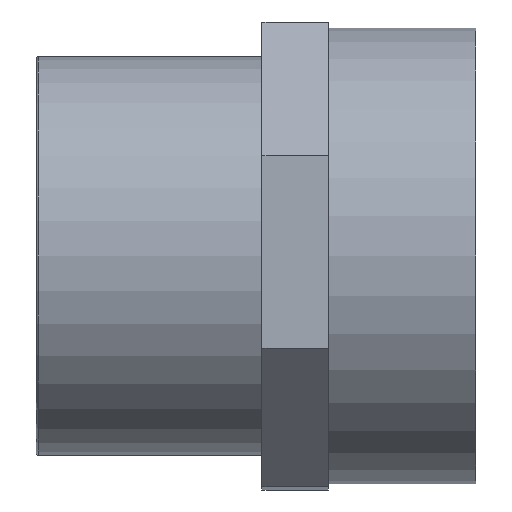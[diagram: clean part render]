
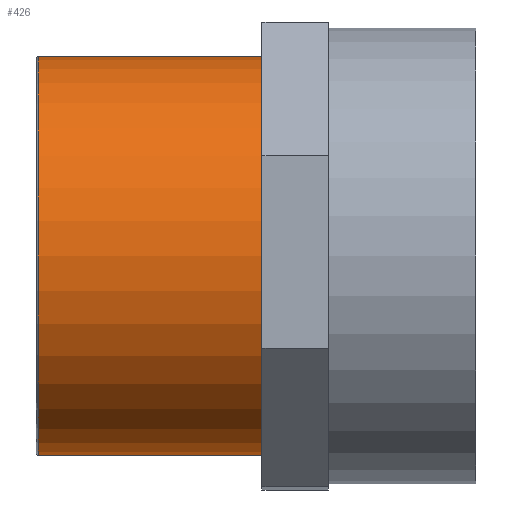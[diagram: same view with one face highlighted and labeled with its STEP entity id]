
A CAD part, front view. The second image highlights one B-rep face of the part: STEP entity #426.
In plain terms, the highlighted cylindrical face has radius 45 mm (diameter 90 mm), a full revolution.
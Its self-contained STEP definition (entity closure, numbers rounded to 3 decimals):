
#42=CYLINDRICAL_SURFACE('',#460,45.);
#50=FACE_BOUND('',#116,.T.);
#61=CIRCLE('',#456,45.);
#64=CIRCLE('',#461,45.);
#85=FACE_OUTER_BOUND('',#115,.T.);
#115=EDGE_LOOP('',(#325));
#116=EDGE_LOOP('',(#326));
#208=VERTEX_POINT('',#628);
#211=VERTEX_POINT('',#636);
#257=EDGE_CURVE('',#208,#208,#61,.T.);
#260=EDGE_CURVE('',#211,#211,#64,.T.);
#325=ORIENTED_EDGE('',*,*,#260,.T.);
#326=ORIENTED_EDGE('',*,*,#257,.F.);
#426=ADVANCED_FACE('',(#85,#50),#42,.T.);
#456=AXIS2_PLACEMENT_3D('',#629,#526,#527);
#460=AXIS2_PLACEMENT_3D('',#635,#534,#535);
#461=AXIS2_PLACEMENT_3D('',#637,#536,#537);
#526=DIRECTION('center_axis',(-1.,0.,0.));
#527=DIRECTION('ref_axis',(0.,1.,0.));
#534=DIRECTION('center_axis',(-1.,0.,0.));
#535=DIRECTION('ref_axis',(0.,-1.,0.));
#536=DIRECTION('center_axis',(-1.,0.,0.));
#537=DIRECTION('ref_axis',(0.,0.,1.));
#628=CARTESIAN_POINT('',(2.101,-8.,0.));
#629=CARTESIAN_POINT('Origin',(2.101,37.,0.));
#635=CARTESIAN_POINT('Origin',(27.101,37.,0.));
#636=CARTESIAN_POINT('',(52.601,-8.,0.));
#637=CARTESIAN_POINT('Origin',(52.601,37.,0.));
